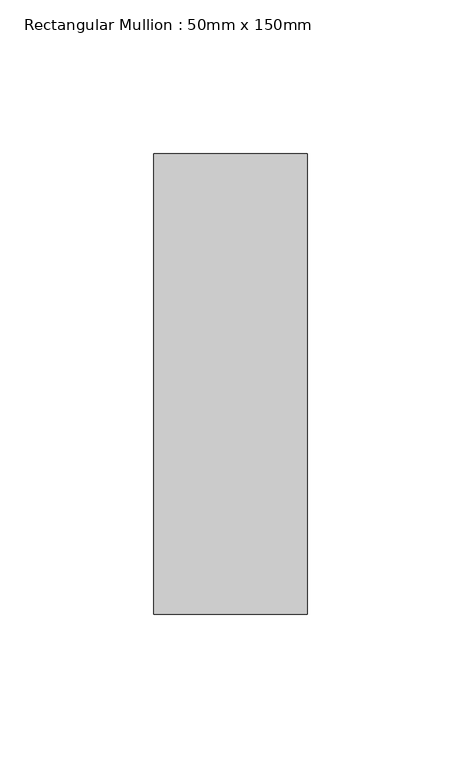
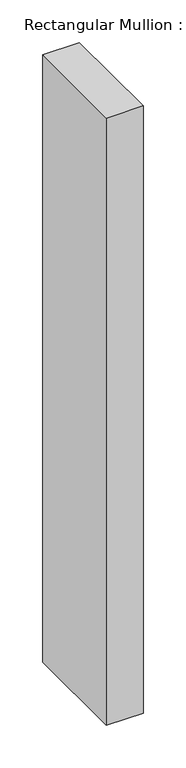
"""IFC4 building model written with IfcOpenShell, lengths in millimetres: member geometry, Rectangular Mullion : 50mm x 150mm."""

from ifc_helpers import new_model, si_unit, frame, origin, place, context, project, spatial, polyline, outline, extrude, source, transform, mapped, element, save


def rectangular_mullion_50mm_x_150mm_d427b131(model_context):
    return source(origin(), model_context, "Body", "SweptSolid", [
        extrude(outline(polyline([(0.0, 75.0), (0.0, -75.0), (-50.0, -75.0), (-50.0, 75.0), (0.0, 75.0)])), frame((0.0, 0.0, -870.9473684), z_axis=(0.0, 0.0, 1.0), x_axis=(1.0, 0.0, 0.0)), (0.0, 0.0, 1.0), 870.9473684),
    ])


if __name__ == "__main__":
    model = new_model("IFC4")
    model_context = context("Model", 3, world=origin())
    ifc_project = project(units=[si_unit("LENGTHUNIT", "METRE", prefix="MILLI")], contexts=[model_context])
    site = spatial("IfcSite", under=ifc_project)
    building = spatial("IfcBuilding", under=site)
    placement = place(None, origin())
    rectangular_mullion_50mm_x_150mm_shape = rectangular_mullion_50mm_x_150mm_d427b131(model_context)
    element("IfcMember", 1, ObjectType="Rectangular Mullion : 50mm x 150mm", at=placement, inside=building, context=model_context, shape_type="MappedRepresentation", body=[
        mapped(rectangular_mullion_50mm_x_150mm_shape, transform((0.0, 0.0, 0.0), x_axis=(1.0, 0.0, 0.0), y_axis=(0.0, 1.0, 0.0), z_axis=(0.0, 0.0, 1.0))),
    ])
    save(model, "model.ifc")
